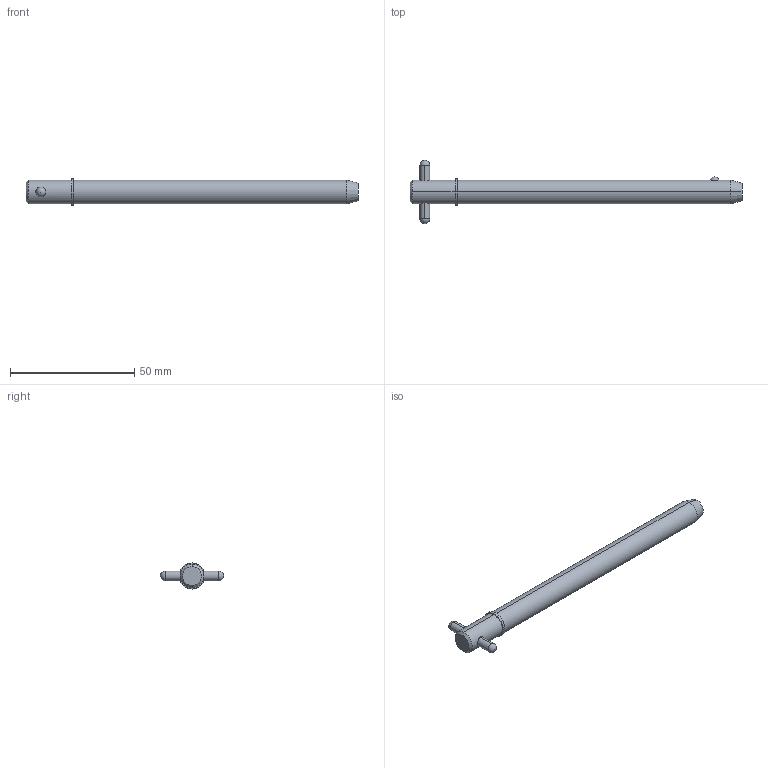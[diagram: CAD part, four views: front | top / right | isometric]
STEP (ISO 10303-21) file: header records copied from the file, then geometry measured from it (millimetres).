
FILE_DESCRIPTION (( 'STEP AP203' ), '1' );
FILE_NAME ('33018.W3740.step', '2024-11-19T17:11:48', ( '' ), ( '' ), 'SwSTEP 2.0', 'SolidWorks 2019', '' );
FILE_SCHEMA (( 'CONFIG_CONTROL_DESIGN' ));
Length unit declared in the file: millimetre
Products named in the file (3): 33018.W3740; Part1_33018.W3740; Part2_33018.W3740
Assembly tree (2 placements, depth 2):
  33018.W3740
    Part1_33018.W3740
    Part2_33018.W3740
Bounding box: 133.35 x 25.4 x 10.48 mm (x, y, z)
Volume: 9630.4 mm3; surface area: 4516.8 mm2
Topology: 2 solids, 2 shells, 22 faces, 47 edges, 30 vertices
Faces by surface type: cylinder 10, sphere 4, cone 4, plane 4
Entity records: 1023 total; most frequent: CARTESIAN_POINT 266, DIRECTION 110, ORIENTED_EDGE 82, AXIS2_PLACEMENT_3D 48, EDGE_CURVE 41, EDGE_LOOP 27, VERTEX_POINT 26, PERSON_AND_ORGANIZATION 26
